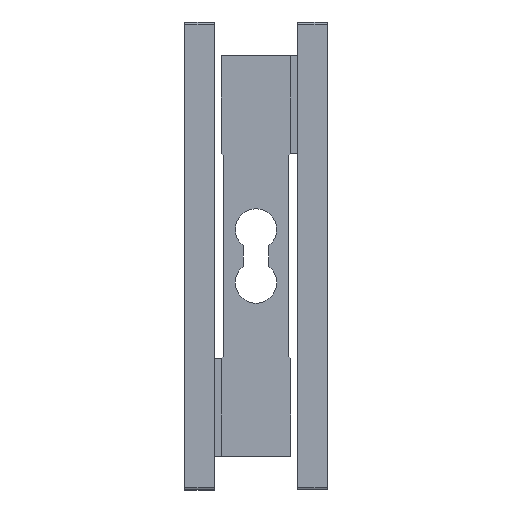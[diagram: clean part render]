
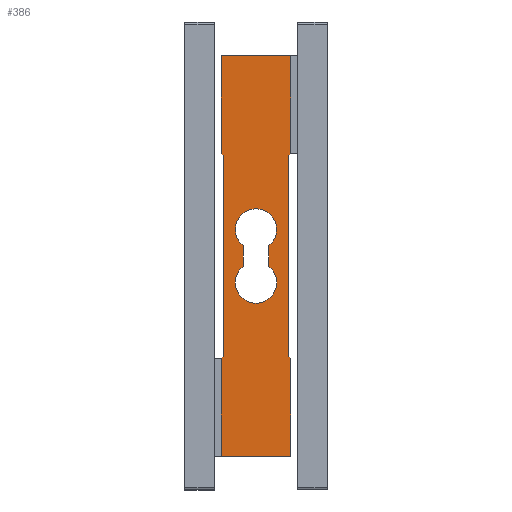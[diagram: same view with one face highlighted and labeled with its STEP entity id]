
A CAD part, left-side view. The second image highlights one B-rep face of the part: STEP entity #386.
In plain terms, the highlighted planar face has unit normal (-1, 0, 0).
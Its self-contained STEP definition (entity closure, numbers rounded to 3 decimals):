
#5 = VECTOR ( 'NONE', #2571, 1000. ) ;
#7 = ORIENTED_EDGE ( 'NONE', *, *, #2138, .T. ) ;
#15 = CARTESIAN_POINT ( 'NONE',  ( -30., 0., -42.5 ) ) ;
#59 = LINE ( 'NONE', #678, #2224 ) ;
#62 = VERTEX_POINT ( 'NONE', #1692 ) ;
#63 = EDGE_CURVE ( 'NONE', #1866, #72, #3112, .T. ) ;
#72 = VERTEX_POINT ( 'NONE', #15 ) ;
#83 = DIRECTION ( 'NONE',  ( 0., 0., 1. ) ) ;
#106 = EDGE_CURVE ( 'NONE', #619, #315, #1939, .T. ) ;
#107 = LINE ( 'NONE', #992, #2502 ) ;
#109 = CARTESIAN_POINT ( 'NONE',  ( -30., 30., -131.5 ) ) ;
#116 = CARTESIAN_POINT ( 'NONE',  ( -30., 20.5, -82.624 ) ) ;
#148 = LINE ( 'NONE', #2744, #979 ) ;
#151 = EDGE_CURVE ( 'NONE', #1635, #156, #1487, .T. ) ;
#156 = VERTEX_POINT ( 'NONE', #2443 ) ;
#197 = AXIS2_PLACEMENT_3D ( 'NONE', #2436, #2682, #987 ) ;
#227 = DIRECTION ( 'NONE',  ( 0., 0.707, 0.707 ) ) ;
#255 = LINE ( 'NONE', #763, #1902 ) ;
#283 = FACE_OUTER_BOUND ( 'NONE', #1760, .T. ) ;
#305 = ORIENTED_EDGE ( 'NONE', *, *, #990, .T. ) ;
#315 = VERTEX_POINT ( 'NONE', #2799 ) ;
#340 = ORIENTED_EDGE ( 'NONE', *, *, #739, .F. ) ;
#344 = CARTESIAN_POINT ( 'NONE',  ( -30., 15., -98.5 ) ) ;
#355 = ORIENTED_EDGE ( 'NONE', *, *, #106, .F. ) ;
#360 = DIRECTION ( 'NONE',  ( 1., 0., 0. ) ) ;
#380 = VERTEX_POINT ( 'NONE', #116 ) ;
#386 = ADVANCED_FACE ( 'NONE', ( #1058, #283 ), #3056, .T. ) ;
#400 = EDGE_CURVE ( 'NONE', #156, #619, #2533, .T. ) ;
#410 = VECTOR ( 'NONE', #1435, 1000. ) ;
#449 = CARTESIAN_POINT ( 'NONE',  ( -30., 9.5, -82.624 ) ) ;
#471 = DIRECTION ( 'NONE',  ( 0., 0., -1. ) ) ;
#477 = VECTOR ( 'NONE', #2345, 1000. ) ;
#534 = ORIENTED_EDGE ( 'NONE', *, *, #1400, .F. ) ;
#592 = CARTESIAN_POINT ( 'NONE',  ( -30., 30., 0. ) ) ;
#596 = AXIS2_PLACEMENT_3D ( 'NONE', #592, #602, #3089 ) ;
#602 = DIRECTION ( 'NONE',  ( -1., 0., 0. ) ) ;
#607 = VERTEX_POINT ( 'NONE', #1452 ) ;
#611 = VERTEX_POINT ( 'NONE', #3170 ) ;
#619 = VERTEX_POINT ( 'NONE', #2919 ) ;
#640 = CARTESIAN_POINT ( 'NONE',  ( -30., 0., 0. ) ) ;
#678 = CARTESIAN_POINT ( 'NONE',  ( -30., 0., -42.5 ) ) ;
#739 = EDGE_CURVE ( 'NONE', #792, #988, #1757, .T. ) ;
#763 = CARTESIAN_POINT ( 'NONE',  ( -30., 20.5, -82.624 ) ) ;
#788 = EDGE_CURVE ( 'NONE', #607, #2116, #1418, .T. ) ;
#792 = VERTEX_POINT ( 'NONE', #1406 ) ;
#849 = EDGE_CURVE ( 'NONE', #380, #3068, #1276, .T. ) ;
#856 = EDGE_CURVE ( 'NONE', #3068, #611, #934, .T. ) ;
#861 = AXIS2_PLACEMENT_3D ( 'NONE', #1033, #2712, #1959 ) ;
#901 = VECTOR ( 'NONE', #1363, 1000. ) ;
#927 = CARTESIAN_POINT ( 'NONE',  ( -30., 30., -131.5 ) ) ;
#928 = VECTOR ( 'NONE', #471, 1000. ) ;
#934 = LINE ( 'NONE', #449, #968 ) ;
#968 = VECTOR ( 'NONE', #1241, 1000. ) ;
#979 = VECTOR ( 'NONE', #227, 1000. ) ;
#987 = DIRECTION ( 'NONE',  ( 0., 0., -1. ) ) ;
#988 = VERTEX_POINT ( 'NONE', #2927 ) ;
#990 = EDGE_CURVE ( 'NONE', #1681, #380, #255, .T. ) ;
#992 = CARTESIAN_POINT ( 'NONE',  ( -30., 30., 0. ) ) ;
#1020 = DIRECTION ( 'NONE',  ( 0., 0., -1. ) ) ;
#1022 = LINE ( 'NONE', #1751, #1654 ) ;
#1024 = DIRECTION ( 'NONE',  ( 0., 0., 1. ) ) ;
#1033 = CARTESIAN_POINT ( 'NONE',  ( -30., 15., -98.5 ) ) ;
#1047 = CARTESIAN_POINT ( 'NONE',  ( -30., 0., 0. ) ) ;
#1058 = FACE_BOUND ( 'NONE', #2811, .T. ) ;
#1121 = ORIENTED_EDGE ( 'NONE', *, *, #1181, .F. ) ;
#1136 = ORIENTED_EDGE ( 'NONE', *, *, #1339, .F. ) ;
#1144 = CARTESIAN_POINT ( 'NONE',  ( -30., 15., -107.5 ) ) ;
#1155 = ORIENTED_EDGE ( 'NONE', *, *, #1856, .T. ) ;
#1181 = EDGE_CURVE ( 'NONE', #315, #607, #2958, .T. ) ;
#1182 = ORIENTED_EDGE ( 'NONE', *, *, #400, .F. ) ;
#1187 = AXIS2_PLACEMENT_3D ( 'NONE', #344, #360, #83 ) ;
#1211 = CIRCLE ( 'NONE', #1187, 9. ) ;
#1237 = DIRECTION ( 'NONE',  ( 0., -0.707, 0.707 ) ) ;
#1241 = DIRECTION ( 'NONE',  ( 0., 0., -1. ) ) ;
#1264 = ORIENTED_EDGE ( 'NONE', *, *, #151, .F. ) ;
#1276 = CIRCLE ( 'NONE', #197, 9. ) ;
#1277 = ORIENTED_EDGE ( 'NONE', *, *, #856, .T. ) ;
#1339 = EDGE_CURVE ( 'NONE', #1632, #1866, #1941, .T. ) ;
#1363 = DIRECTION ( 'NONE',  ( 0., -0.707, -0.707 ) ) ;
#1370 = CARTESIAN_POINT ( 'NONE',  ( -30., 9.5, -82.624 ) ) ;
#1400 = EDGE_CURVE ( 'NONE', #72, #1635, #59, .T. ) ;
#1406 = CARTESIAN_POINT ( 'NONE',  ( -30., 29.293, -130.793 ) ) ;
#1418 = LINE ( 'NONE', #927, #1496 ) ;
#1435 = DIRECTION ( 'NONE',  ( 0., 0., -1. ) ) ;
#1452 = CARTESIAN_POINT ( 'NONE',  ( -30., 30., -174. ) ) ;
#1473 = ORIENTED_EDGE ( 'NONE', *, *, #63, .F. ) ;
#1487 = LINE ( 'NONE', #2203, #2440 ) ;
#1496 = VECTOR ( 'NONE', #2163, 1000. ) ;
#1514 = ORIENTED_EDGE ( 'NONE', *, *, #849, .T. ) ;
#1549 = EDGE_CURVE ( 'NONE', #62, #1632, #107, .T. ) ;
#1632 = VERTEX_POINT ( 'NONE', #2674 ) ;
#1635 = VERTEX_POINT ( 'NONE', #2921 ) ;
#1654 = VECTOR ( 'NONE', #1237, 1000. ) ;
#1681 = VERTEX_POINT ( 'NONE', #1945 ) ;
#1692 = CARTESIAN_POINT ( 'NONE',  ( -30., 30., -42.5 ) ) ;
#1702 = DIRECTION ( 'NONE',  ( 0., 0., 1. ) ) ;
#1722 = ORIENTED_EDGE ( 'NONE', *, *, #1549, .F. ) ;
#1751 = CARTESIAN_POINT ( 'NONE',  ( -30., 30., -131.5 ) ) ;
#1757 = LINE ( 'NONE', #1911, #2030 ) ;
#1760 = EDGE_LOOP ( 'NONE', ( #1136, #1722, #2168, #340, #2075, #2240, #1121, #355, #1182, #1264, #534, #1473 ) ) ;
#1798 = EDGE_CURVE ( 'NONE', #2116, #792, #1022, .T. ) ;
#1856 = EDGE_CURVE ( 'NONE', #611, #2651, #2775, .T. ) ;
#1866 = VERTEX_POINT ( 'NONE', #1047 ) ;
#1896 = EDGE_CURVE ( 'NONE', #988, #62, #148, .T. ) ;
#1902 = VECTOR ( 'NONE', #1024, 1000. ) ;
#1911 = CARTESIAN_POINT ( 'NONE',  ( -30., 29.293, -43.207 ) ) ;
#1939 = LINE ( 'NONE', #2700, #928 ) ;
#1941 = LINE ( 'NONE', #640, #477 ) ;
#1945 = CARTESIAN_POINT ( 'NONE',  ( -30., 20.5, -91.376 ) ) ;
#1959 = DIRECTION ( 'NONE',  ( 0., 0., 1. ) ) ;
#2030 = VECTOR ( 'NONE', #2381, 1000. ) ;
#2075 = ORIENTED_EDGE ( 'NONE', *, *, #1798, .F. ) ;
#2116 = VERTEX_POINT ( 'NONE', #109 ) ;
#2138 = EDGE_CURVE ( 'NONE', #2651, #1681, #1211, .T. ) ;
#2153 = CARTESIAN_POINT ( 'NONE',  ( -30., 0., 0. ) ) ;
#2163 = DIRECTION ( 'NONE',  ( 0., 0., 1. ) ) ;
#2168 = ORIENTED_EDGE ( 'NONE', *, *, #1896, .F. ) ;
#2203 = CARTESIAN_POINT ( 'NONE',  ( -30., 0.707, -43.207 ) ) ;
#2224 = VECTOR ( 'NONE', #2872, 1000. ) ;
#2240 = ORIENTED_EDGE ( 'NONE', *, *, #788, .F. ) ;
#2308 = CARTESIAN_POINT ( 'NONE',  ( -30., 0., -174. ) ) ;
#2345 = DIRECTION ( 'NONE',  ( 0., -1., 0. ) ) ;
#2381 = DIRECTION ( 'NONE',  ( 0., 0., 1. ) ) ;
#2436 = CARTESIAN_POINT ( 'NONE',  ( -30., 15., -75.5 ) ) ;
#2440 = VECTOR ( 'NONE', #1020, 1000. ) ;
#2443 = CARTESIAN_POINT ( 'NONE',  ( -30., 0.707, -130.793 ) ) ;
#2502 = VECTOR ( 'NONE', #1702, 1000. ) ;
#2533 = LINE ( 'NONE', #3049, #901 ) ;
#2571 = DIRECTION ( 'NONE',  ( 0., 1., 0. ) ) ;
#2651 = VERTEX_POINT ( 'NONE', #1144 ) ;
#2674 = CARTESIAN_POINT ( 'NONE',  ( -30., 30., 0. ) ) ;
#2682 = DIRECTION ( 'NONE',  ( 1., 0., 0. ) ) ;
#2700 = CARTESIAN_POINT ( 'NONE',  ( -30., 0., -131.5 ) ) ;
#2712 = DIRECTION ( 'NONE',  ( 1., 0., 0. ) ) ;
#2744 = CARTESIAN_POINT ( 'NONE',  ( -30., 30., -42.5 ) ) ;
#2775 = CIRCLE ( 'NONE', #861, 9. ) ;
#2799 = CARTESIAN_POINT ( 'NONE',  ( -30., 0., -174. ) ) ;
#2811 = EDGE_LOOP ( 'NONE', ( #1514, #1277, #1155, #7, #305 ) ) ;
#2872 = DIRECTION ( 'NONE',  ( 0., 0.707, -0.707 ) ) ;
#2919 = CARTESIAN_POINT ( 'NONE',  ( -30., 0., -131.5 ) ) ;
#2921 = CARTESIAN_POINT ( 'NONE',  ( -30., 0.707, -43.207 ) ) ;
#2927 = CARTESIAN_POINT ( 'NONE',  ( -30., 29.293, -43.207 ) ) ;
#2958 = LINE ( 'NONE', #2308, #5 ) ;
#3049 = CARTESIAN_POINT ( 'NONE',  ( -30., 0., -131.5 ) ) ;
#3056 = PLANE ( 'NONE',  #596 ) ;
#3068 = VERTEX_POINT ( 'NONE', #1370 ) ;
#3089 = DIRECTION ( 'NONE',  ( 0., 0., 1. ) ) ;
#3112 = LINE ( 'NONE', #2153, #410 ) ;
#3170 = CARTESIAN_POINT ( 'NONE',  ( -30., 9.5, -91.376 ) ) ;
